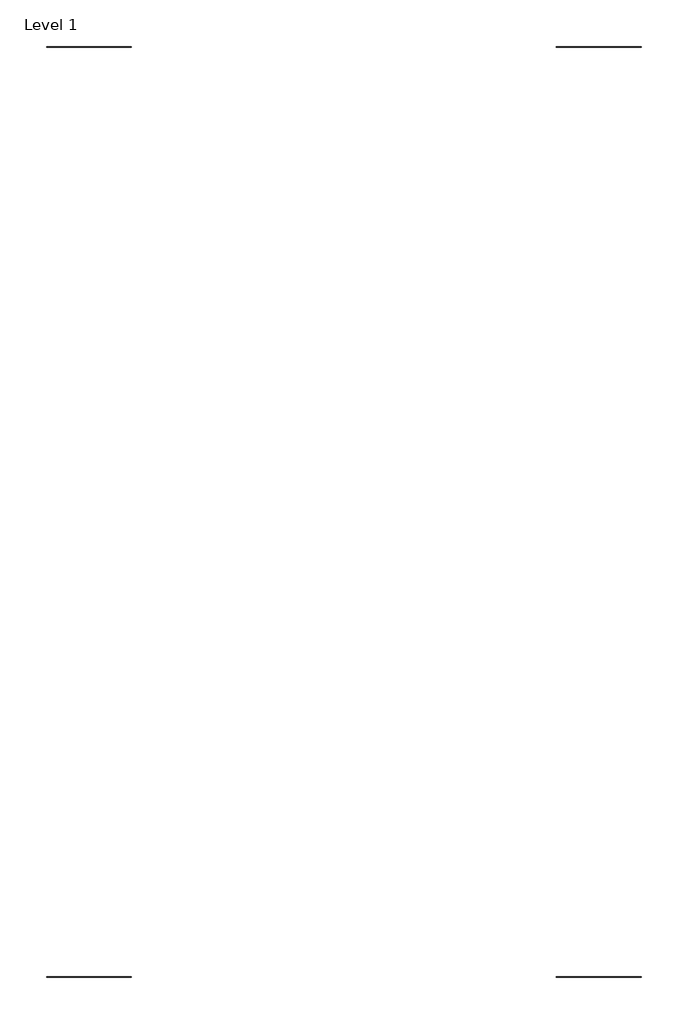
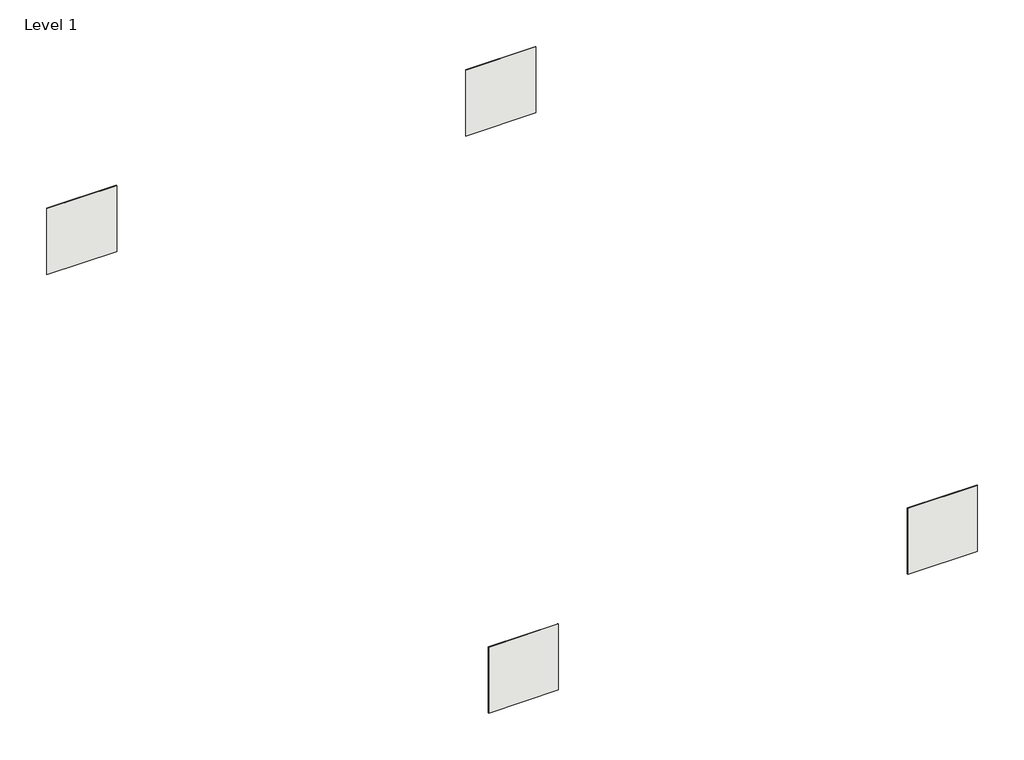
# One storey: 4 coverings.
"""IFC4 building model written with IfcOpenShell, lengths in millimetres."""

from ifc_helpers import new_model, si_unit, origin, origin_with_axes, place, context, project, spatial, polyline, outline, extrude, element, save

model = new_model("IFC4")

# Units and contexts
model_context = context("Model", 3, world=origin())
ifc_project = project(units=[si_unit("LENGTHUNIT", "METRE", prefix="MILLI")], contexts=[model_context])

# Site, building, storey
site = spatial("IfcSite", under=ifc_project)
building = spatial("IfcBuilding", under=site)
storey = spatial("IfcBuildingStorey", under=building, Name="Level 1", Elevation=0.0)

# Coverings
placement = place(None, origin())
element("IfcCovering", 1, ObjectType="LOVE TILES-SENSE-ELEVATION DECORATION-35x70-MATT RECTIFIED-BEIGE", at=placement, inside=storey, context=model_context, shape_type="SweptSolid", body=[
    extrude(outline(polyline([(28997.0720096, -26211.9513387), (27997.0720096, -26211.9513387), (27997.0720096, -26203.1513387), (28997.0720096, -26203.1513387), (28997.0720096, -26211.9513387)])), origin_with_axes(), (0.0, 0.0, 1.0), 1000.0),
])
element("IfcCovering", 2, ObjectType="LOVE TILES-SENSE-ELEVATION DECORATION-35x70-MATT RECTIFIED-GREY", at=placement, inside=storey, context=model_context, shape_type="SweptSolid", body=[
    extrude(outline(polyline([(34997.0720096, -26211.9513387), (33997.0720096, -26211.9513387), (33997.0720096, -26203.1513387), (34997.0720096, -26203.1513387), (34997.0720096, -26211.9513387)])), origin_with_axes(), (0.0, 0.0, 1.0), 1000.0),
])
element("IfcCovering", 3, ObjectType="LOVE TILES-SENSE-ELEVATION DECORATION-35x70-MATT RECTIFIED-LIGHT GREY", at=placement, inside=storey, context=model_context, shape_type="SweptSolid", body=[
    extrude(outline(polyline([(28997.0720096, -37163.5437558), (27997.0720096, -37163.5437558), (27997.0720096, -37154.7437558), (28997.0720096, -37154.7437558), (28997.0720096, -37163.5437558)])), origin_with_axes(), (0.0, 0.0, 1.0), 1000.0),
])
element("IfcCovering", 4, ObjectType="LOVE TILES-SENSE-ELEVATION DECORATION-35x70-MATT RECTIFIED-WHITE", at=placement, inside=storey, context=model_context, shape_type="SweptSolid", body=[
    extrude(outline(polyline([(34997.0720096, -37163.5437558), (33997.0720096, -37163.5437558), (33997.0720096, -37154.7437558), (34997.0720096, -37154.7437558), (34997.0720096, -37163.5437558)])), origin_with_axes(), (0.0, 0.0, 1.0), 1000.0),
])

save(model, "model.ifc")
